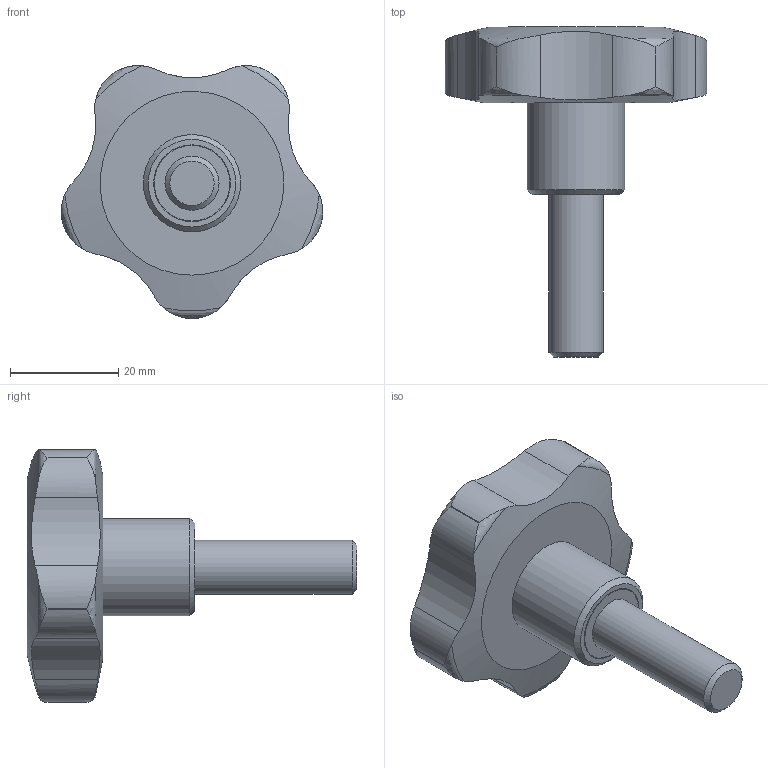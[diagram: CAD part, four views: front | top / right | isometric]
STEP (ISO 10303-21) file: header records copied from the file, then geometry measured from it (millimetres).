
FILE_DESCRIPTION( ( 'STEP AP203' ), '1' );
FILE_NAME( 'C:/Temp/Ganter_Step_05_03_2020/data/2_2/gn_5337_4/gn_5337_4_s/Star knob GN 5337.4-50-M10-30.stp', '2020-03-05T12:09:49', ( 'License CC BY-ND 4.0' ), ( 'CADENAS' ), ' ', 'PARTsolutions', ' ' );
FILE_SCHEMA( ( 'CONFIG_CONTROL_DESIGN' ) );
Length unit declared in the file: millimetre
Products named in the file (1): _Star knob GN 5337.4-50-M10-30
Bounding box: 48.33 x 61 x 46.75 mm (x, y, z)
Volume: 26888.9 mm3; surface area: 6745.4 mm2
Topology: 1 solids, 1 shells, 44 faces, 115 edges, 76 vertices
Faces by surface type: cylinder 24, torus 10, plane 5, cone 3, bspline 1, sphere 1
Full cylindrical faces by diameter (mm): 10 x1, 14 x1, 14.2 x1, 18 x1
Entity records: 1975 total; most frequent: CARTESIAN_POINT 974, ORIENTED_EDGE 204, DIRECTION 172, EDGE_CURVE 102, AXIS2_PLACEMENT_3D 76, VERTEX_POINT 74, EDGE_LOOP 56, B_SPLINE_CURVE_WITH_KNOTS 50
